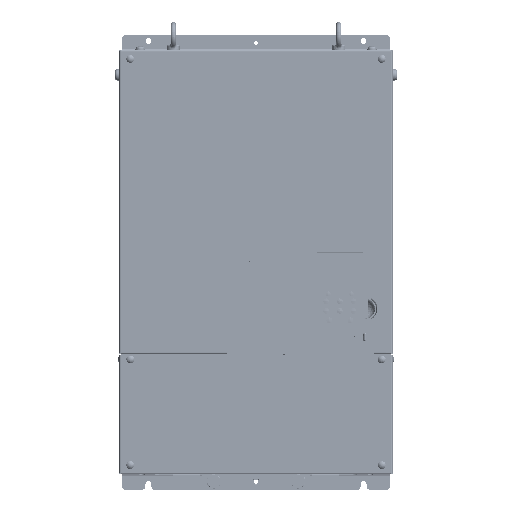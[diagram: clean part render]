
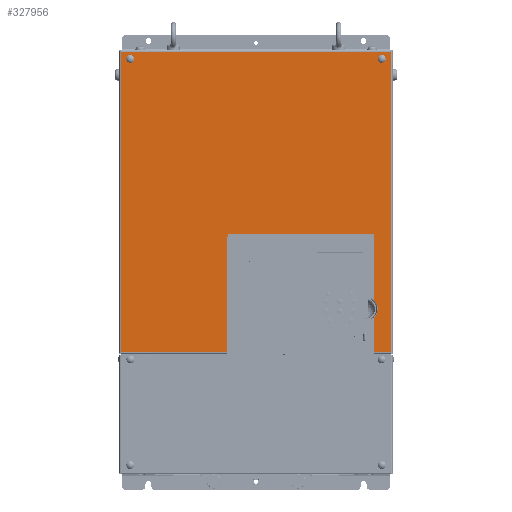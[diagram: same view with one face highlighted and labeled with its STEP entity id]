
A CAD part, top view. The second image highlights one B-rep face of the part: STEP entity #327956.
In plain terms, the highlighted planar face has unit normal (0, 0, 1) as drawn and (0, 1, 0) by its records, which use the part's own axes.
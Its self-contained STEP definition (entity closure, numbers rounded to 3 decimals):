
#326734=CARTESIAN_POINT('',(152.,1.6,-172.));
#326735=DIRECTION('',(0.,1.,0.));
#326736=DIRECTION('',(-1.,0.,0.));
#326737=AXIS2_PLACEMENT_3D('',#326734,#326735,#326736);
#326739=CARTESIAN_POINT('',(152.,1.6,-172.));
#326740=DIRECTION('',(0.,1.,0.));
#326741=DIRECTION('',(1.,0.,0.));
#326742=AXIS2_PLACEMENT_3D('',#326739,#326740,#326741);
#326744=CARTESIAN_POINT('',(-152.,1.6,-172.));
#326745=DIRECTION('',(0.,1.,0.));
#326746=DIRECTION('',(-1.,0.,0.));
#326747=AXIS2_PLACEMENT_3D('',#326744,#326745,#326746);
#326749=CARTESIAN_POINT('',(-152.,1.6,-172.));
#326750=DIRECTION('',(0.,1.,0.));
#326751=DIRECTION('',(1.,0.,0.));
#326752=AXIS2_PLACEMENT_3D('',#326749,#326750,#326751);
#326754=DIRECTION('',(0.,0.,-1.));
#326755=VECTOR('',#326754,73.911);
#326756=CARTESIAN_POINT('',(143.,1.6,118.911));
#326757=LINE('',#326756,#326755);
#326758=DIRECTION('',(-1.,0.,0.));
#326759=VECTOR('',#326758,166.);
#326760=CARTESIAN_POINT('',(137.,1.6,39.));
#326761=LINE('',#326760,#326759);
#326762=DIRECTION('',(0.,0.,-1.));
#326763=VECTOR('',#326762,136.793);
#326764=CARTESIAN_POINT('',(-35.,1.6,181.793));
#326765=LINE('',#326764,#326763);
#326766=DIRECTION('',(0.,0.,-1.));
#326767=VECTOR('',#326766,42.704);
#326768=CARTESIAN_POINT('',(143.,1.6,181.793));
#326769=LINE('',#326768,#326767);
#326770=CARTESIAN_POINT('',(131.9,1.6,129.));
#326771=DIRECTION('',(0.,1.,0.));
#326772=DIRECTION('',(0.74,0.,0.673));
#326773=AXIS2_PLACEMENT_3D('',#326770,#326771,#326772);
#326803=CARTESIAN_POINT('',(137.,1.6,45.));
#326804=DIRECTION('',(0.,-1.,0.));
#326805=DIRECTION('',(0.,0.,-1.));
#326806=AXIS2_PLACEMENT_3D('',#326803,#326804,#326805);
#326821=CARTESIAN_POINT('',(-29.,1.6,45.));
#326822=DIRECTION('',(0.,-1.,0.));
#326823=DIRECTION('',(-1.,0.,0.));
#326824=AXIS2_PLACEMENT_3D('',#326821,#326822,#326823);
#327146=DIRECTION('',(1.,0.,0.));
#327147=VECTOR('',#327146,20.);
#327148=CARTESIAN_POINT('',(143.,1.6,181.793));
#327149=LINE('',#327148,#327147);
#327155=DIRECTION('',(1.,0.,0.));
#327156=VECTOR('',#327155,128.);
#327157=CARTESIAN_POINT('',(-163.,1.6,181.793));
#327158=LINE('',#327157,#327156);
#327207=DIRECTION('',(0.,0.,1.));
#327208=VECTOR('',#327207,363.293);
#327209=CARTESIAN_POINT('',(163.,1.6,-181.5));
#327210=LINE('',#327209,#327208);
#327377=DIRECTION('',(1.,0.,0.));
#327378=VECTOR('',#327377,326.);
#327379=CARTESIAN_POINT('',(-163.,1.6,-181.5));
#327380=LINE('',#327379,#327378);
#327469=DIRECTION('',(0.,0.,-1.));
#327470=VECTOR('',#327469,363.293);
#327471=CARTESIAN_POINT('',(-163.,1.6,181.793));
#327472=LINE('',#327471,#327470);
#327647=CARTESIAN_POINT('',(-163.,1.6,-181.5));
#327648=CARTESIAN_POINT('',(163.,1.6,-181.5));
#327649=VERTEX_POINT('',#327647);
#327650=VERTEX_POINT('',#327648);
#327675=CARTESIAN_POINT('',(149.,1.6,-172.));
#327676=CARTESIAN_POINT('',(155.,1.6,-172.));
#327677=VERTEX_POINT('',#327675);
#327678=VERTEX_POINT('',#327676);
#327679=CARTESIAN_POINT('',(-155.,1.6,-172.));
#327680=CARTESIAN_POINT('',(-149.,1.6,-172.));
#327681=VERTEX_POINT('',#327679);
#327682=VERTEX_POINT('',#327680);
#327767=CARTESIAN_POINT('',(-35.,1.6,45.));
#327769=VERTEX_POINT('',#327767);
#327771=CARTESIAN_POINT('',(-29.,1.6,39.));
#327773=VERTEX_POINT('',#327771);
#327775=CARTESIAN_POINT('',(137.,1.6,39.));
#327777=VERTEX_POINT('',#327775);
#327779=CARTESIAN_POINT('',(143.,1.6,45.));
#327781=VERTEX_POINT('',#327779);
#327785=CARTESIAN_POINT('',(-35.,1.6,181.793));
#327786=VERTEX_POINT('',#327785);
#327813=CARTESIAN_POINT('',(-163.,1.6,181.793));
#327814=VERTEX_POINT('',#327813);
#327817=CARTESIAN_POINT('',(163.,1.6,181.793));
#327818=VERTEX_POINT('',#327817);
#327841=CARTESIAN_POINT('',(143.,1.6,181.793));
#327843=VERTEX_POINT('',#327841);
#327851=CARTESIAN_POINT('',(143.,1.6,139.089));
#327852=CARTESIAN_POINT('',(143.,1.6,118.911));
#327853=VERTEX_POINT('',#327851);
#327854=VERTEX_POINT('',#327852);
#327914=CARTESIAN_POINT('',(0.,1.6,0.));
#327915=DIRECTION('',(0.,-1.,0.));
#327916=DIRECTION('',(-1.,0.,0.));
#327917=AXIS2_PLACEMENT_3D('',#327914,#327915,#327916);
#327918=PLANE('',#327917);
#327920=ORIENTED_EDGE('',*,*,#327919,.T.);
#327922=ORIENTED_EDGE('',*,*,#327921,.F.);
#327924=ORIENTED_EDGE('',*,*,#327923,.T.);
#327926=ORIENTED_EDGE('',*,*,#327925,.F.);
#327928=ORIENTED_EDGE('',*,*,#327927,.F.);
#327930=ORIENTED_EDGE('',*,*,#327929,.F.);
#327932=ORIENTED_EDGE('',*,*,#327931,.T.);
#327934=ORIENTED_EDGE('',*,*,#327933,.T.);
#327936=ORIENTED_EDGE('',*,*,#327935,.T.);
#327938=ORIENTED_EDGE('',*,*,#327937,.F.);
#327940=ORIENTED_EDGE('',*,*,#327939,.T.);
#327942=ORIENTED_EDGE('',*,*,#327941,.T.);
#327943=EDGE_LOOP('',(#327920,#327922,#327924,#327926,#327928,#327930,#327932,
#327934,#327936,#327938,#327940,#327942));
#327944=FACE_OUTER_BOUND('',#327943,.F.);
#327946=ORIENTED_EDGE('',*,*,#327945,.T.);
#327948=ORIENTED_EDGE('',*,*,#327947,.T.);
#327949=EDGE_LOOP('',(#327946,#327948));
#327950=FACE_BOUND('',#327949,.F.);
#327951=ORIENTED_EDGE('',*,*,#327904,.T.);
#327953=ORIENTED_EDGE('',*,*,#327952,.T.);
#327954=EDGE_LOOP('',(#327951,#327953));
#327955=FACE_BOUND('',#327954,.F.);
#327956=ADVANCED_FACE('',(#327944,#327950,#327955),#327918,.F.);
#326738=CIRCLE('',#326737,3.);
#326743=CIRCLE('',#326742,3.);
#326748=CIRCLE('',#326747,3.);
#326753=CIRCLE('',#326752,3.);
#326774=CIRCLE('',#326773,15.);
#326807=CIRCLE('',#326806,6.);
#326825=CIRCLE('',#326824,6.);
#327904=EDGE_CURVE('',#327681,#327682,#326748,.T.);
#327919=EDGE_CURVE('',#327854,#327781,#326757,.T.);
#327921=EDGE_CURVE('',#327777,#327781,#326807,.T.);
#327923=EDGE_CURVE('',#327777,#327773,#326761,.T.);
#327925=EDGE_CURVE('',#327769,#327773,#326825,.T.);
#327927=EDGE_CURVE('',#327786,#327769,#326765,.T.);
#327929=EDGE_CURVE('',#327814,#327786,#327158,.T.);
#327931=EDGE_CURVE('',#327814,#327649,#327472,.T.);
#327933=EDGE_CURVE('',#327649,#327650,#327380,.T.);
#327935=EDGE_CURVE('',#327650,#327818,#327210,.T.);
#327937=EDGE_CURVE('',#327843,#327818,#327149,.T.);
#327939=EDGE_CURVE('',#327843,#327853,#326769,.T.);
#327941=EDGE_CURVE('',#327853,#327854,#326774,.T.);
#327945=EDGE_CURVE('',#327677,#327678,#326738,.T.);
#327947=EDGE_CURVE('',#327678,#327677,#326743,.T.);
#327952=EDGE_CURVE('',#327682,#327681,#326753,.T.);
